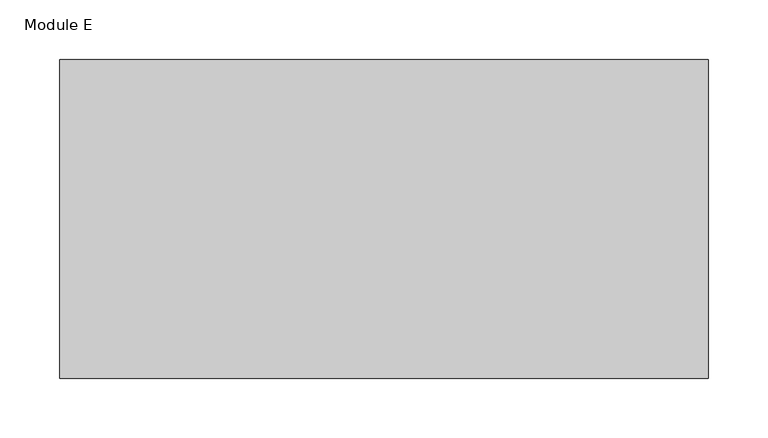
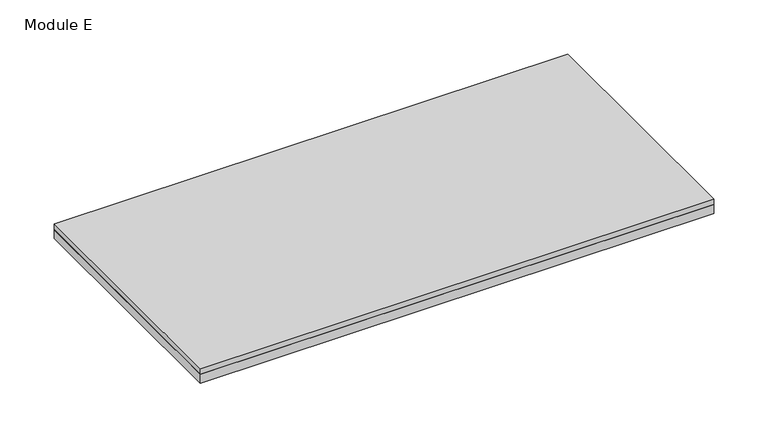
"""IFC4 building model written with IfcOpenShell, lengths in millimetres: proxy geometry, Spinneybeck_Wave : Module E."""

from ifc_helpers import new_model, si_unit, frame, origin, origin_with_axes, place, context, project, spatial, polyline, outline, extrude, source, transform, mapped, element, save


def module_e_3b491663(model_context):
    return source(origin(), model_context, "Body", "SweptSolid", [
        extrude(outline(polyline([(547.37, -134.0996528), (2.4729323, -134.0996528), (2.4729323, 134.0996528), (547.37, 134.0996528), (547.37, -134.0996528)])), origin_with_axes(), (0.0, 0.0, 1.0), 10.0210938),
        extrude(outline(polyline([(2.4729323, 134.0996528), (547.37, 134.0996528), (547.37, -134.0996528), (2.4729323, -134.0996528), (2.4729323, 134.0996528)])), frame((0.0, 0.0, 10.0210938), z_axis=(0.0, 0.0, 1.0), x_axis=(1.0, 0.0, 0.0)), (0.0, 0.0, 1.0), 6.35),
    ])


if __name__ == "__main__":
    model = new_model("IFC4")
    model_context = context("Model", 3, world=origin())
    ifc_project = project(units=[si_unit("LENGTHUNIT", "METRE", prefix="MILLI")], contexts=[model_context])
    site = spatial("IfcSite", under=ifc_project)
    building = spatial("IfcBuilding", under=site)
    placement = place(None, origin())
    module_e_shape = module_e_3b491663(model_context)
    element("IfcBuildingElementProxy", 1, Name="Spinneybeck_Wave : Module E", ObjectType="Spinneybeck_Wave : Module E", at=placement, inside=building, context=model_context, shape_type="MappedRepresentation", body=[
        mapped(module_e_shape, transform((0.0, 0.0, 0.0), x_axis=(1.0, 0.0, 0.0), y_axis=(0.0, 1.0, 0.0), z_axis=(0.0, 0.0, 1.0))),
    ])
    save(model, "model.ifc")
